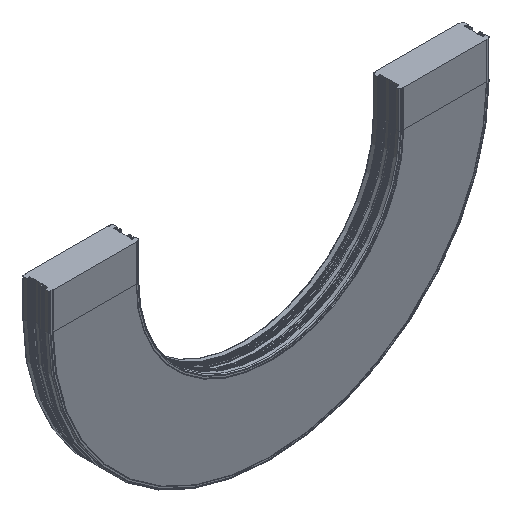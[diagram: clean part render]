
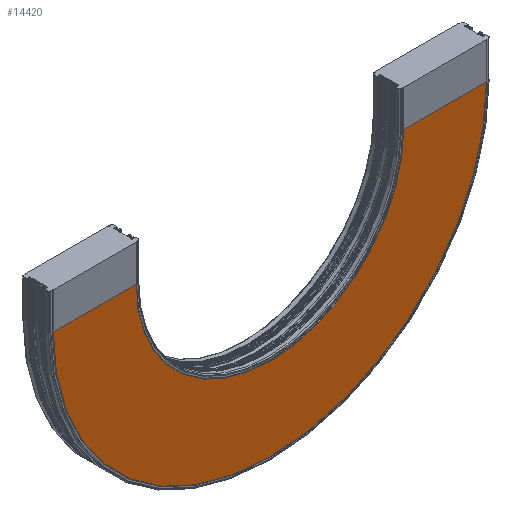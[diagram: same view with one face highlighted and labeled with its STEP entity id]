
A CAD part, isometric view. The second image highlights one B-rep face of the part: STEP entity #14420.
In plain terms, the highlighted planar face has unit normal (0, -1, 0).
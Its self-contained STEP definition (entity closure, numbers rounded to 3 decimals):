
#1761 = ORIENTED_EDGE ( 'NONE', *, *, #11742, .T. ) ;
#1947 = AXIS2_PLACEMENT_3D ( 'NONE', #8805, #3298, #13062 ) ;
#3298 = DIRECTION ( 'NONE',  ( 0., 1., 0. ) ) ;
#3430 = EDGE_CURVE ( 'NONE', #17399, #14745, #14685, .T. ) ;
#3634 = DIRECTION ( 'NONE',  ( 0., 1., 0. ) ) ;
#4075 = CARTESIAN_POINT ( 'NONE',  ( 227.6, -76.7, -200. ) ) ;
#4772 = CARTESIAN_POINT ( 'NONE',  ( 0., -76.7, -200. ) ) ;
#5641 = ORIENTED_EDGE ( 'NONE', *, *, #5741, .T. ) ;
#5741 = EDGE_CURVE ( 'NONE', #6865, #17399, #8528, .T. ) ;
#6865 = VERTEX_POINT ( 'NONE', #17563 ) ;
#6868 = EDGE_CURVE ( 'NONE', #6865, #11644, #14677, .T. ) ;
#7941 = DIRECTION ( 'NONE',  ( 0., 1., 0. ) ) ;
#8408 = LINE ( 'NONE', #4772, #15904 ) ;
#8528 = LINE ( 'NONE', #15871, #11838 ) ;
#8805 = CARTESIAN_POINT ( 'NONE',  ( 2147.6, -76.7, -200. ) ) ;
#8828 = DIRECTION ( 'NONE',  ( -1., 0., 0. ) ) ;
#9364 = CARTESIAN_POINT ( 'NONE',  ( 1692.4, -76.7, -200. ) ) ;
#9379 = ORIENTED_EDGE ( 'NONE', *, *, #6868, .F. ) ;
#10891 = AXIS2_PLACEMENT_3D ( 'NONE', #11984, #3634, #13406 ) ;
#11584 = PLANE ( 'NONE',  #1947 ) ;
#11644 = VERTEX_POINT ( 'NONE', #15697 ) ;
#11742 = EDGE_CURVE ( 'NONE', #14745, #11644, #8408, .T. ) ;
#11838 = VECTOR ( 'NONE', #8828, 1000. ) ;
#11855 = EDGE_LOOP ( 'NONE', ( #1761, #9379, #5641, #16161 ) ) ;
#11984 = CARTESIAN_POINT ( 'NONE',  ( 960., -76.7, -200. ) ) ;
#13062 = DIRECTION ( 'NONE',  ( 0., 0., 1. ) ) ;
#13160 = DIRECTION ( 'NONE',  ( -1., 0., 0. ) ) ;
#13406 = DIRECTION ( 'NONE',  ( 0., 0., 1. ) ) ;
#14420 = ADVANCED_FACE ( 'NONE', ( #14925 ), #11584, .F. ) ;
#14677 = CIRCLE ( 'NONE', #10891, 1187.6 ) ;
#14685 = CIRCLE ( 'NONE', #15224, 732.4 ) ;
#14745 = VERTEX_POINT ( 'NONE', #4075 ) ;
#14925 = FACE_OUTER_BOUND ( 'NONE', #11855, .T. ) ;
#15224 = AXIS2_PLACEMENT_3D ( 'NONE', #16370, #7941, #17773 ) ;
#15697 = CARTESIAN_POINT ( 'NONE',  ( -227.6, -76.7, -200. ) ) ;
#15871 = CARTESIAN_POINT ( 'NONE',  ( 2147.6, -76.7, -200. ) ) ;
#15904 = VECTOR ( 'NONE', #13160, 1000. ) ;
#16161 = ORIENTED_EDGE ( 'NONE', *, *, #3430, .T. ) ;
#16370 = CARTESIAN_POINT ( 'NONE',  ( 960., -76.7, -200. ) ) ;
#17399 = VERTEX_POINT ( 'NONE', #9364 ) ;
#17563 = CARTESIAN_POINT ( 'NONE',  ( 2147.6, -76.7, -200. ) ) ;
#17773 = DIRECTION ( 'NONE',  ( 0., 0., 1. ) ) ;
